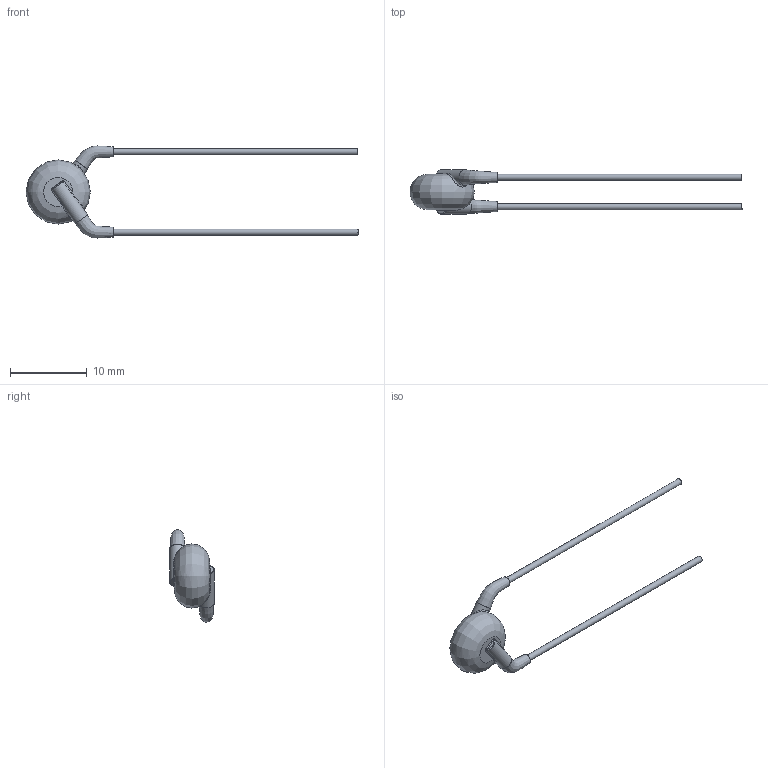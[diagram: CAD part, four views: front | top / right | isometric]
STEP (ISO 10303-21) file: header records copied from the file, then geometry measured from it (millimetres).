
FILE_DESCRIPTION(/* description */ (''),/* implementation_level */ '2;1');
FILE_NAME(/* name */ 'I:\Marketing\M6t1\3D-Models\Zchng-Werk-3\Upload for homepage\Ceramite\Y5U\440LT56-R\440LT56-R.stp',/* time_stamp */ '2016-11-10T14:01:07+01:00',/* author */ ('sheinrich'),/* organization */ (''),/* preprocessor_version */ 'ST-DEVELOPER v16.1',/* originating_system */ 'Autodesk Inventor 2016',/* authorisation */ '');
FILE_SCHEMA (('AUTOMOTIVE_DESIGN { 1 0 10303 214 3 1 1 }'));
Length unit declared in the file: millimetre
Products named in the file (1): 440LT56-R
Bounding box: 43.4 x 5.8 x 12.03 mm (x, y, z)
Volume: 272.1 mm3; surface area: 407.6 mm2
Topology: 1 solids, 1 shells, 37 faces, 81 edges, 44 vertices
Faces by surface type: bspline 13, cylinder 10, plane 8, torus 6
Full cylindrical faces by diameter (mm): 0.81 x2, 2 x2
Entity records: 1976 total; most frequent: CARTESIAN_POINT 1212, ORIENTED_EDGE 142, DIRECTION 130, EDGE_CURVE 71, AXIS2_PLACEMENT_3D 59, EDGE_LOOP 43, VERTEX_POINT 42, STYLED_ITEM 38
